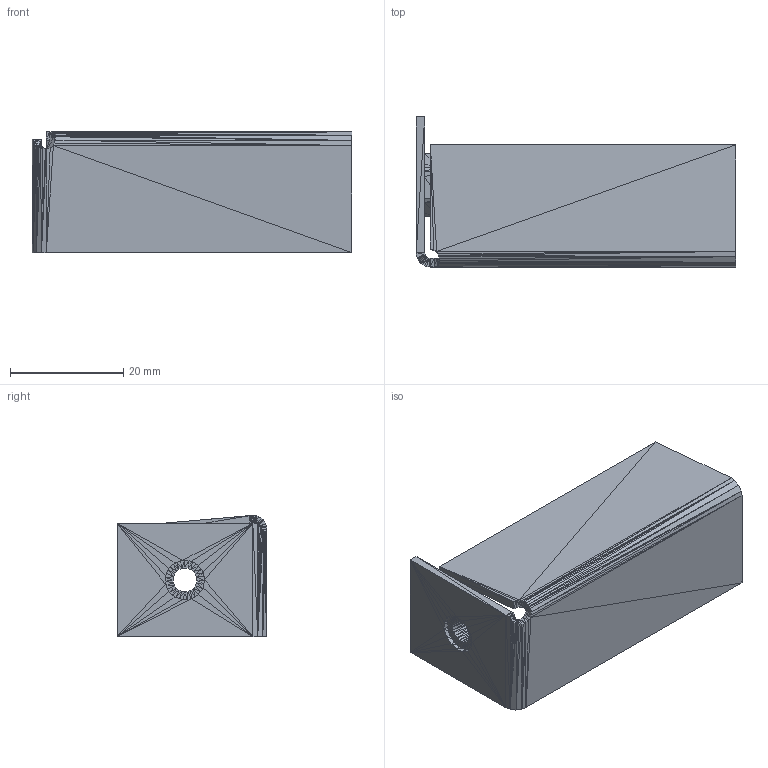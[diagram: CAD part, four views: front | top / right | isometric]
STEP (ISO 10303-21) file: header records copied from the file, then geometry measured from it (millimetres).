
FILE_DESCRIPTION((''),'2;1');
FILE_NAME('003582', '2025-08-28T09:19:25', (''), (''), 'ImageToStl.com STEP Converter','', '');
FILE_SCHEMA(('AUTOMOTIVE_DESIGN_CC2'));
Length unit declared in the file: metre
Products named in the file (1): product0
Bounding box: 56.5 x 26.5 x 21.4 mm (x, y, z)
Surface area: 6098 mm2 (no closed solid volume)
Topology: 0 solids, 558 shells, 558 faces, 1674 edges, 279 vertices
Faces by surface type: plane 558
Entity records: 12862 total; most frequent: DIRECTION 2792, ORIENTED_EDGE 1674, EDGE_CURVE 1674, LINE 1674, VECTOR 1674, AXIS2_PLACEMENT_3D 559, FACE_SURFACE 558, PLANE 558
